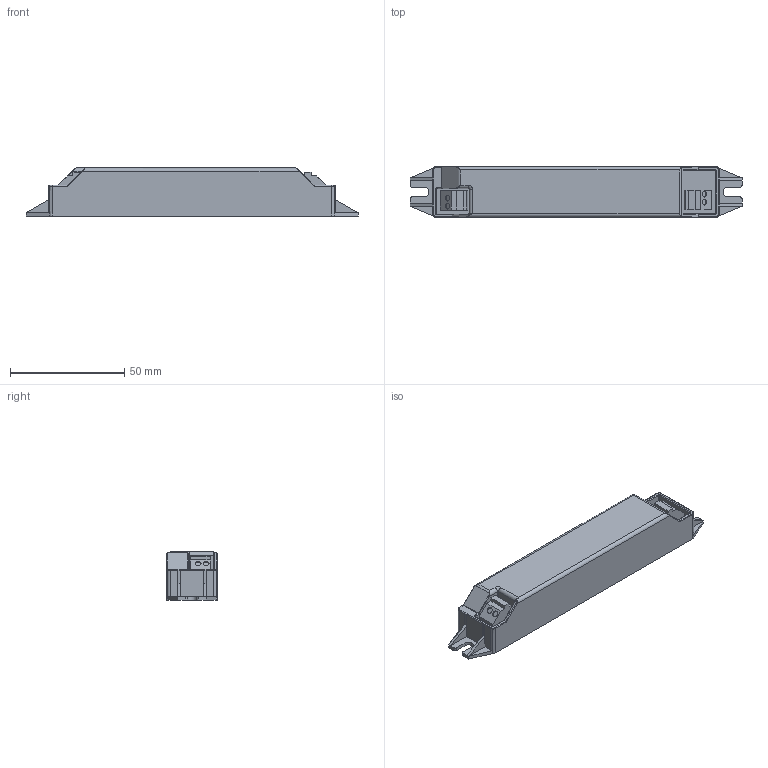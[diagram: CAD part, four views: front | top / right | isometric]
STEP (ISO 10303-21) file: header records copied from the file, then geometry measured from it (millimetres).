
FILE_DESCRIPTION((''),'2;1');
FILE_NAME('15007402Z','2012-12-05T',('juergen.hrach'),(''),'PRO/ENGINEER BY PARAMETRIC TECHNOLOGY CORPORATION, 2011310','PRO/ENGINEER BY PARAMETRIC TECHNOLOGY CORPORATION, 2011310','');
FILE_SCHEMA(('AUTOMOTIVE_DESIGN { 1 2 10303 214 0 1 1 1 }'));
Length unit declared in the file: millimetre
Products named in the file (1): 15007402Z
Bounding box: 145 x 22.2 x 21 mm (x, y, z)
Volume: 53034 mm3; surface area: 13854.9 mm2
Topology: 1 solids, 1 shells, 197 faces, 494 edges, 305 vertices
Faces by surface type: plane 89, cylinder 64, torus 18, bspline 17, extrusion 8, sphere 1
Entity records: 8401 total; most frequent: CARTESIAN_POINT 2243, ORIENTED_EDGE 988, DIRECTION 880, PRESENTATION_STYLE_ASSIGNMENT 495, STYLED_ITEM 495, CURVE_STYLE 494, EDGE_CURVE 494, VERTEX_POINT 305
